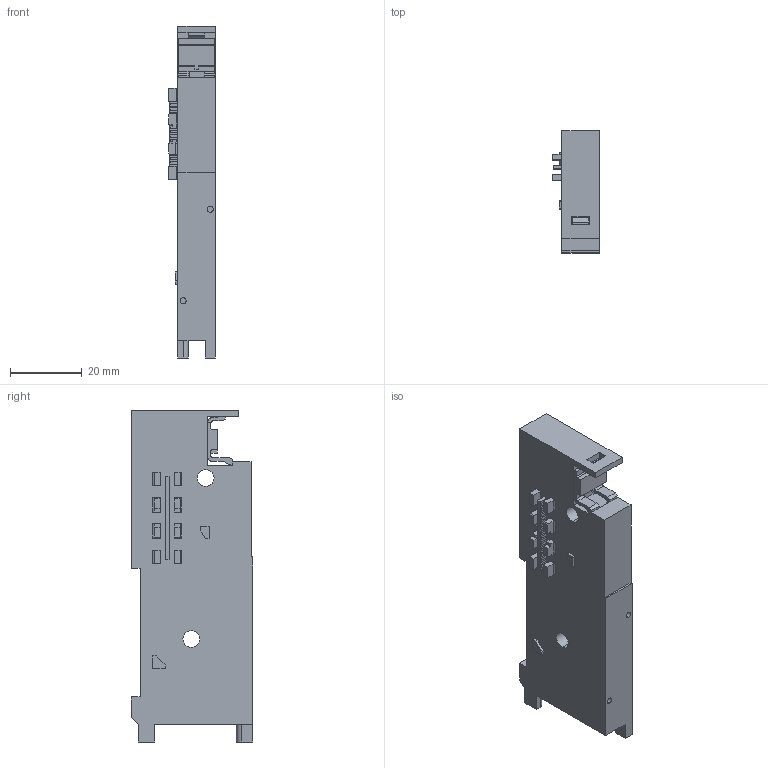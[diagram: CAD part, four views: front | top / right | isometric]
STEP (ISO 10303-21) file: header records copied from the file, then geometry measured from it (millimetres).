
FILE_DESCRIPTION( (''), '2;1');
FILE_NAME ('CVICAD02.11724.F10ZX_ValveBaseAssy_6583.stp','2020-09-01T14:14:21',(''),(''),'spGate 12.6.6','','');
FILE_SCHEMA (('AUTOMOTIVE_DESIGN'));
Length unit declared in the file: millimetre
Bounding box: 13.1 x 34 x 92.8 mm (x, y, z)
Volume: 28327 mm3; surface area: 9694.7 mm2
Topology: 1 solids, 1 shells, 324 faces, 966 edges, 735 vertices
Faces by surface type: plane 279, cylinder 45
Entity records: 17975 total; most frequent: CARTESIAN_POINT 2321, ORIENTED_EDGE 1932, DIRECTION 1408, COLOUR_RGB 1291, PRESENTATION_STYLE_ASSIGNMENT 1291, STYLED_ITEM 1291, EDGE_CURVE 966, DRAUGHTING_PRE_DEFINED_CURVE_FONT 966
